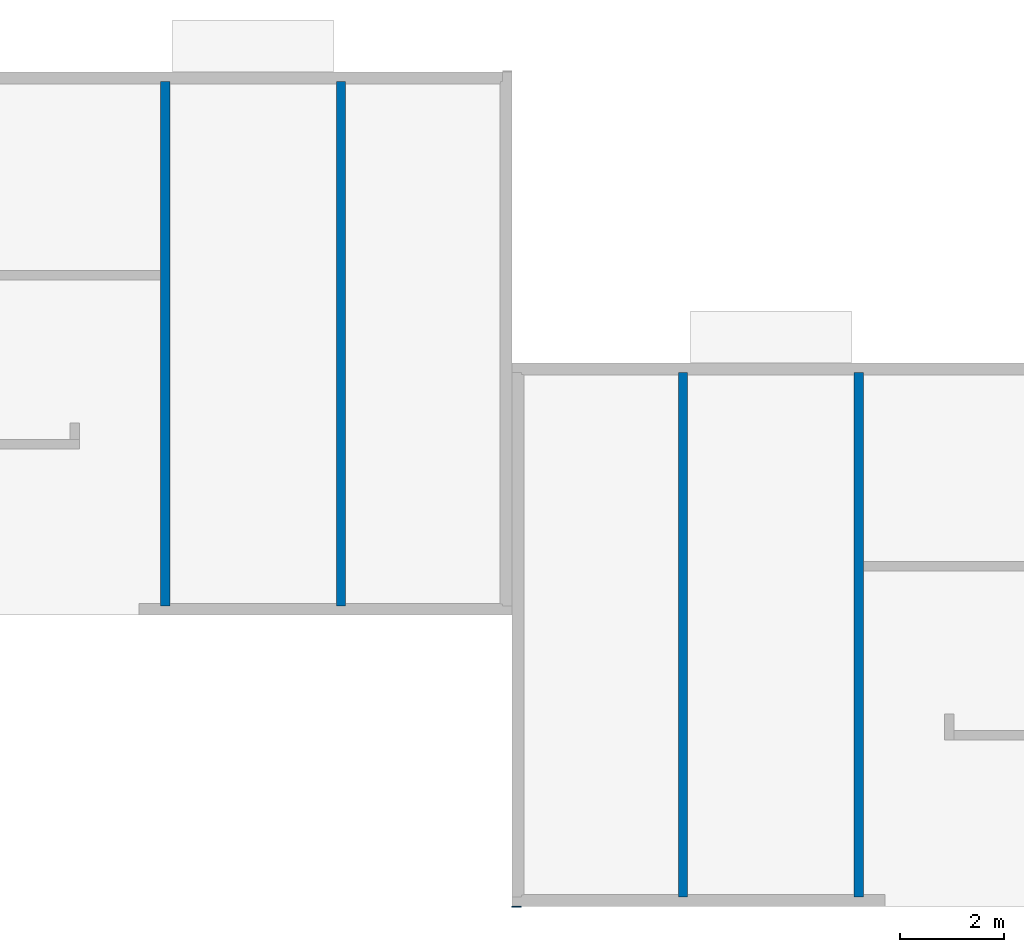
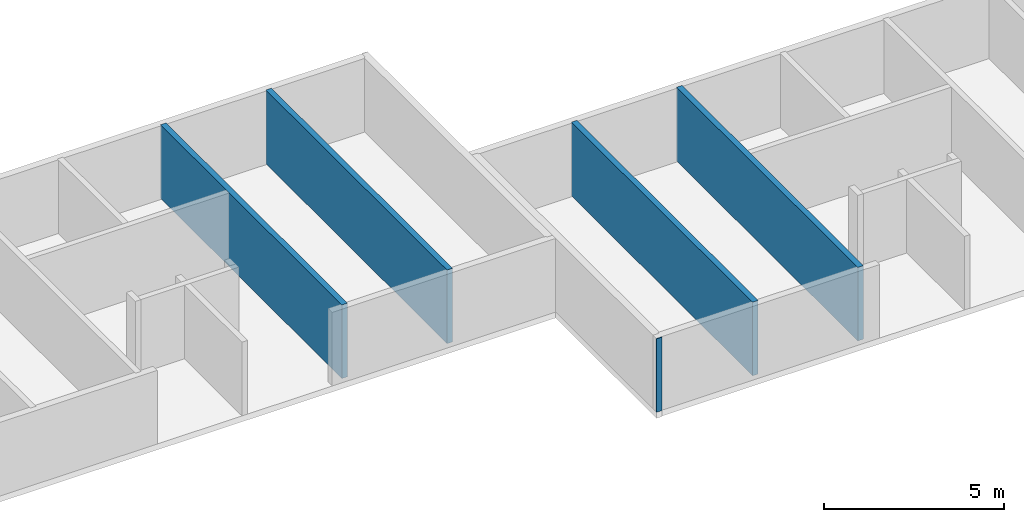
# One storey, part 4 of 9: 5 walls.
"""IFC2X3 building model written with IfcOpenShell, lengths in metres."""

from ifc_helpers import new_model, si_unit, frame, frame_2d, origin, origin_with_axes, place, context, project, spatial, rectangle, extrude, element, save


model = new_model("IFC2X3")

# Units and contexts
model_context = context("Model", 3, precision=1e-06, world=origin())
ifc_project = project(units=[si_unit("LENGTHUNIT", "METRE"), si_unit("PLANEANGLEUNIT", "RADIAN")], contexts=[model_context])

# Site, building, storey
site = spatial("IfcSite", under=ifc_project, CompositionType="ELEMENT")
building = spatial("IfcBuilding", under=site, CompositionType="ELEMENT")
storey = spatial("IfcBuildingStorey", under=building, Name="r+2", CompositionType="ELEMENT", Elevation=5.4)

# Walls
placement = place(None, origin())
for number, where, z_axis, x_axis in (
    (1, (36.49999999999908, 0.200077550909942, 5.4), (0.0, 0.0, 1.0), (0.0, 1.0, 0.0)),
    (2, (46.459999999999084, -5.399922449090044, 5.4), (0.0, 0.0, 1.0), (0.0, 1.0, 0.0)),
    (3, (33.11999999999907, 0.200077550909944, 5.4), (0.0, 0.0, 1.0), (0.0, 1.0, 0.0)),
    (4, (43.07999999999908, -5.399922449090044, 5.4), (0.0, 0.0, 1.0), (0.0, 1.0, 0.0)),
):
    element("IfcWall", number, at=place(placement, frame(where, z_axis=z_axis, x_axis=x_axis)), inside=storey, context=model_context, shape_type="SweptSolid", body=[
        extrude(rectangle(XDim=10.090000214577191, YDim=0.18, at=frame_2d((5.045000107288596, 0.09), x_axis=(1.0, 0.0)), kind="CURVE"), origin_with_axes(), (0.0, 0.0, 1.0), 2.5),
    ])
wall_placement = place(placement, frame((39.69999999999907, -5.579922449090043, 5.4), z_axis=(0.0, 0.0, 1.0), x_axis=(1.0, 0.0, 0.0)))
element("IfcWall", 5, at=wall_placement, inside=storey, context=model_context, shape_type="SweptSolid", body=[
    extrude(rectangle(XDim=0.18, YDim=0.020077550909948, at=frame_2d((0.09, 0.010038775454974), x_axis=(1.0, 0.0)), kind="CURVE"), frame((0.0, -0.020077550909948, 0.0), z_axis=(0.0, 0.0, 1.0), x_axis=(1.0, 0.0, 0.0)), (0.0, 0.0, 1.0), 2.5),
])

save(model, "model.ifc")
